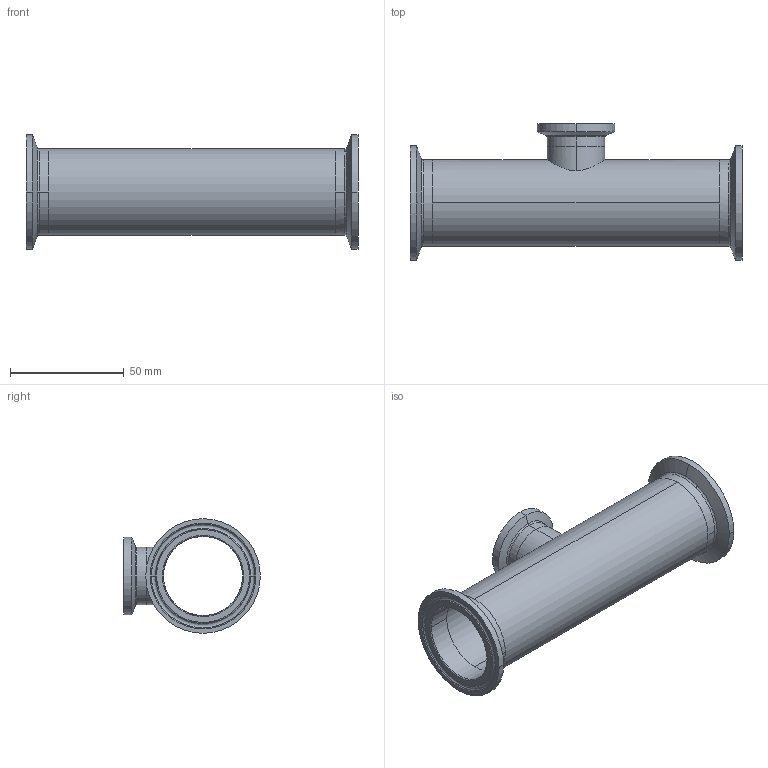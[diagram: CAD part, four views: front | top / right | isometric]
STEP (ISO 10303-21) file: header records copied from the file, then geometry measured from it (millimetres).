
FILE_DESCRIPTION (( 'STEP AP214' ), '1' );
FILE_NAME ('TEG7RS6L1.5x1.0-..Type A.STEP', '2016-05-24T08:26:25', ( 'eran' ), ( '' ), 'SwSTEP 2.0', 'SolidWorks 2016', '' );
FILE_SCHEMA (( 'AUTOMOTIVE_DESIGN' ));
Length unit declared in the file: millimetre
Products named in the file (1): TEG7RS6L1.5x1.0-..Type A
Bounding box: 146 x 60.1 x 50.39 mm (x, y, z)
Volume: 36739 mm3; surface area: 41011.9 mm2
Topology: 4 solids, 4 shells, 84 faces, 198 edges, 126 vertices
Faces by surface type: cylinder 28, bspline 28, cone 16, plane 12
Entity records: 4073 total; most frequent: CARTESIAN_POINT 2087, DIRECTION 426, ORIENTED_EDGE 396, EDGE_CURVE 198, AXIS2_PLACEMENT_3D 191, CIRCLE 134, VERTEX_POINT 126, EDGE_LOOP 98
